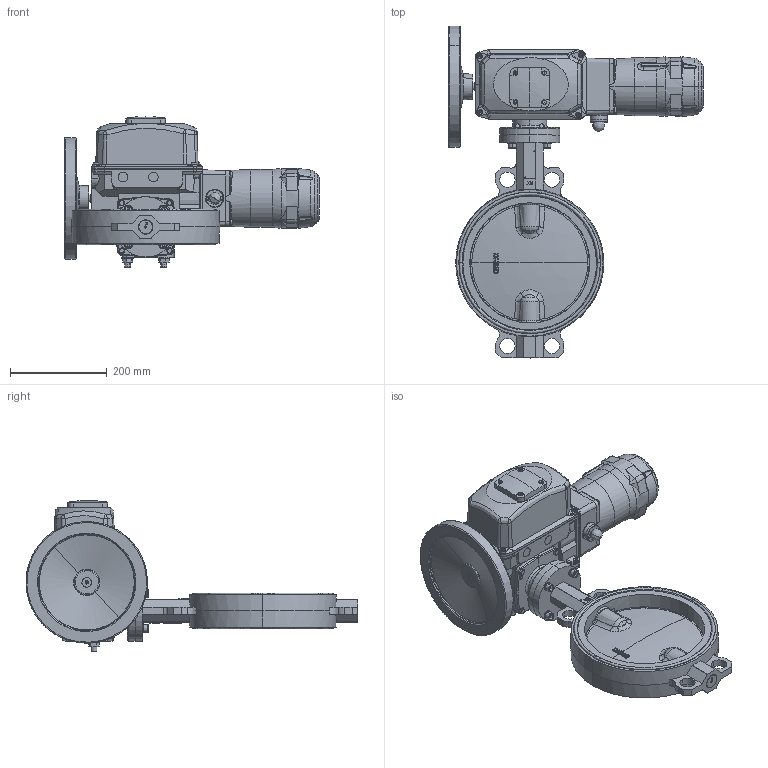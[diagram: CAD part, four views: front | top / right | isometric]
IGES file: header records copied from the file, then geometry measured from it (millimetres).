
Start section: SolidWorks IGES file using NURBS representation for surfaces
Global section: file name: H:\BE BIBLIOTHEQUE 3D\Projet_Biblio3D_2016\FSK\VPI\VPI-B04\VPI-B04 DN250.Igs; native system: SolidWorks 2014; preprocessor: SolidWorks 2014; author: a.cartier; date: 160929.163927; units: millimetre
Bounding box: 527.8 x 687.98 x 312.57 mm (x, y, z)
Volume: 13081949.2 mm3; surface area: 966373.8 mm2
Topology: 14 solids, 14 shells, 2264 faces, 5914 edges, 3640 vertices
Faces by surface type: bspline 2264
